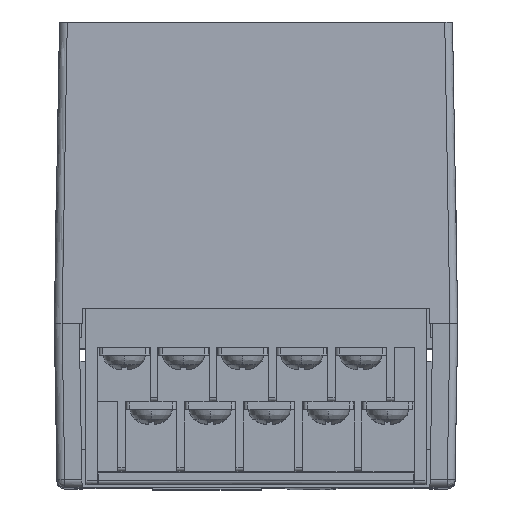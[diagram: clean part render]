
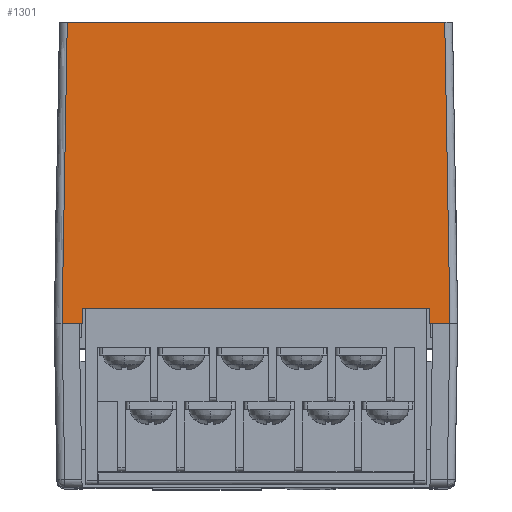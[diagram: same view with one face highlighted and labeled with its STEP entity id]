
A CAD part, top view. The second image highlights one B-rep face of the part: STEP entity #1301.
In plain terms, the highlighted planar face has unit normal (0, 0.018, 1) as drawn and (0, -1, -0.017) by its records, which use the part's own axes.
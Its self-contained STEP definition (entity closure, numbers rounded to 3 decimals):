
#1301=ADVANCED_FACE('',(#3013),#26951,.T.);
#3013=FACE_OUTER_BOUND('',#4900,.T.);
#4900=EDGE_LOOP('',(#10312,#10313,#10314,#10315,#10316,#10317,#10318,#10319));
#10312=ORIENTED_EDGE('',*,*,#16951,.F.);
#10313=ORIENTED_EDGE('',*,*,#17140,.T.);
#10314=ORIENTED_EDGE('',*,*,#17141,.T.);
#10315=ORIENTED_EDGE('',*,*,#17142,.T.);
#10316=ORIENTED_EDGE('',*,*,#16780,.F.);
#10317=ORIENTED_EDGE('',*,*,#17346,.T.);
#10318=ORIENTED_EDGE('',*,*,#17143,.T.);
#10319=ORIENTED_EDGE('',*,*,#17343,.T.);
#16780=EDGE_CURVE('',#25038,#25039,#20696,.T.);
#16951=EDGE_CURVE('',#25183,#25184,#20865,.T.);
#17140=EDGE_CURVE('',#25183,#25326,#21051,.T.);
#17141=EDGE_CURVE('',#25326,#25327,#21052,.T.);
#17142=EDGE_CURVE('',#25327,#25039,#21053,.T.);
#17143=EDGE_CURVE('',#25328,#25329,#21054,.T.);
#17343=EDGE_CURVE('',#25329,#25184,#21220,.T.);
#17346=EDGE_CURVE('',#25038,#25328,#21223,.T.);
#20696=B_SPLINE_CURVE_WITH_KNOTS('',1,(#52170,#52171),.UNSPECIFIED.,.F.,
 .F.,(2,2),(0.,2.585),.UNSPECIFIED.);
#20865=B_SPLINE_CURVE_WITH_KNOTS('',1,(#52516,#52517),.UNSPECIFIED.,.F.,
 .F.,(2,2),(0.,2.585),.UNSPECIFIED.);
#21051=B_SPLINE_CURVE_WITH_KNOTS('',1,(#52900,#52901),.UNSPECIFIED.,.F.,
 .F.,(2,2),(0.,1.93),.UNSPECIFIED.);
#21052=B_SPLINE_CURVE_WITH_KNOTS('',1,(#52902,#52903),.UNSPECIFIED.,.F.,
 .F.,(2,2),(-44.83,0.),.UNSPECIFIED.);
#21053=B_SPLINE_CURVE_WITH_KNOTS('',1,(#52904,#52905),.UNSPECIFIED.,.F.,
 .F.,(2,2),(0.,1.93),.UNSPECIFIED.);
#21054=B_SPLINE_CURVE_WITH_KNOTS('',1,(#52906,#52907),.UNSPECIFIED.,.F.,
 .F.,(2,2),(-48.646,0.),.UNSPECIFIED.);
#21220=B_SPLINE_CURVE_WITH_KNOTS('',1,(#53354,#53355),.UNSPECIFIED.,.F.,
 .F.,(2,2),(0.,38.812),.UNSPECIFIED.);
#21223=B_SPLINE_CURVE_WITH_KNOTS('',1,(#53360,#53361),.UNSPECIFIED.,.F.,
 .F.,(2,2),(0.,38.812),.UNSPECIFIED.);
#25038=VERTEX_POINT('',#50960);
#25039=VERTEX_POINT('',#50961);
#25183=VERTEX_POINT('',#51105);
#25184=VERTEX_POINT('',#51106);
#25326=VERTEX_POINT('',#51248);
#25327=VERTEX_POINT('',#51249);
#25328=VERTEX_POINT('',#51250);
#25329=VERTEX_POINT('',#51251);
#26951=PLANE('',#30470);
#30470=AXIS2_PLACEMENT_3D('',#48695,#31726,$);
#31726=DIRECTION('',(0.,-1.,-0.017));
#48695=CARTESIAN_POINT('',(-30.001,-55.068,37.481));
#50960=CARTESIAN_POINT('',(-25.,-55.,33.6));
#50961=CARTESIAN_POINT('',(-22.415,-55.,33.6));
#51105=CARTESIAN_POINT('',(22.415,-55.,33.6));
#51106=CARTESIAN_POINT('',(25.,-55.,33.6));
#51248=CARTESIAN_POINT('',(22.415,-54.966,31.67));
#51249=CARTESIAN_POINT('',(-22.415,-54.966,31.67));
#51250=CARTESIAN_POINT('',(-24.323,-54.323,-5.2));
#51251=CARTESIAN_POINT('',(24.323,-54.323,-5.2));
#52170=CARTESIAN_POINT('',(-25.,-55.,33.6));
#52171=CARTESIAN_POINT('',(-22.415,-55.,33.6));
#52516=CARTESIAN_POINT('',(22.415,-55.,33.6));
#52517=CARTESIAN_POINT('',(25.,-55.,33.6));
#52900=CARTESIAN_POINT('',(22.415,-55.,33.6));
#52901=CARTESIAN_POINT('',(22.415,-54.966,31.67));
#52902=CARTESIAN_POINT('',(22.415,-54.966,31.67));
#52903=CARTESIAN_POINT('',(-22.415,-54.966,31.67));
#52904=CARTESIAN_POINT('',(-22.415,-54.966,31.67));
#52905=CARTESIAN_POINT('',(-22.415,-55.,33.6));
#52906=CARTESIAN_POINT('',(-24.323,-54.323,-5.2));
#52907=CARTESIAN_POINT('',(24.323,-54.323,-5.2));
#53354=CARTESIAN_POINT('',(24.323,-54.323,-5.2));
#53355=CARTESIAN_POINT('',(25.,-55.,33.6));
#53360=CARTESIAN_POINT('',(-25.,-55.,33.6));
#53361=CARTESIAN_POINT('',(-24.323,-54.323,-5.2));
